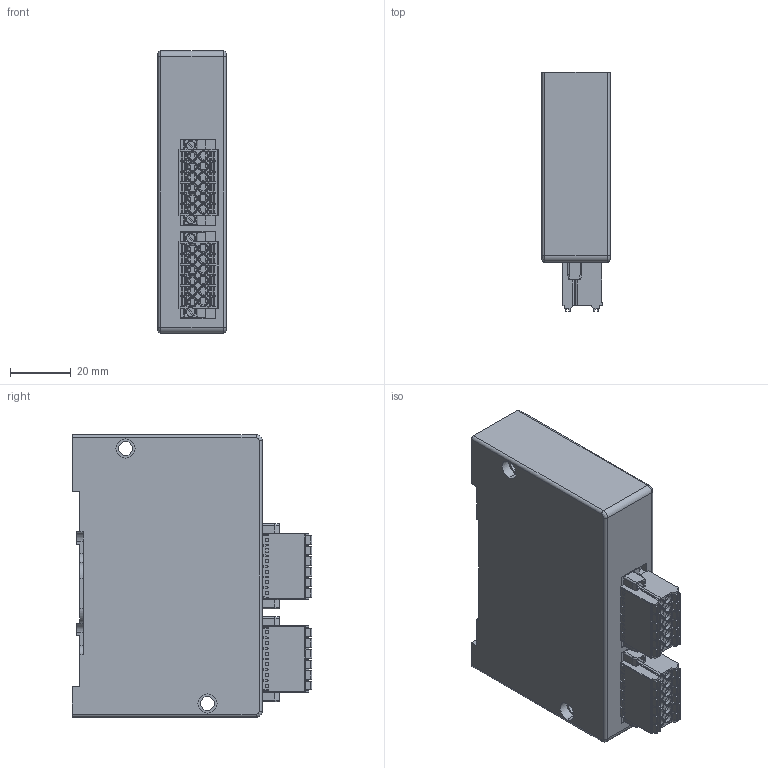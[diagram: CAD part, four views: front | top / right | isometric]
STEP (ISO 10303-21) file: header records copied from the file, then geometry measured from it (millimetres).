
FILE_DESCRIPTION( (''), '2;1');
FILE_NAME ('YS8-D8S.stp','2022-12-01T16:50:48',(''),(''),'spGate 12.6.6','','');
FILE_SCHEMA (('AUTOMOTIVE_DESIGN'));
Length unit declared in the file: millimetre
Bounding box: 22.5 x 78.8 x 93 mm (x, y, z)
Volume: 131687.1 mm3; surface area: 25726.6 mm2
Topology: 1 solids, 1 shells, 1584 faces, 4144 edges, 2667 vertices
Faces by surface type: plane 995, cylinder 481, bspline 108
Entity records: 83914 total; most frequent: CARTESIAN_POINT 11701, ORIENTED_EDGE 8288, DIRECTION 7915, COLOUR_RGB 5729, PRESENTATION_STYLE_ASSIGNMENT 5729, STYLED_ITEM 5729, EDGE_CURVE 4144, DRAUGHTING_PRE_DEFINED_CURVE_FONT 4144
